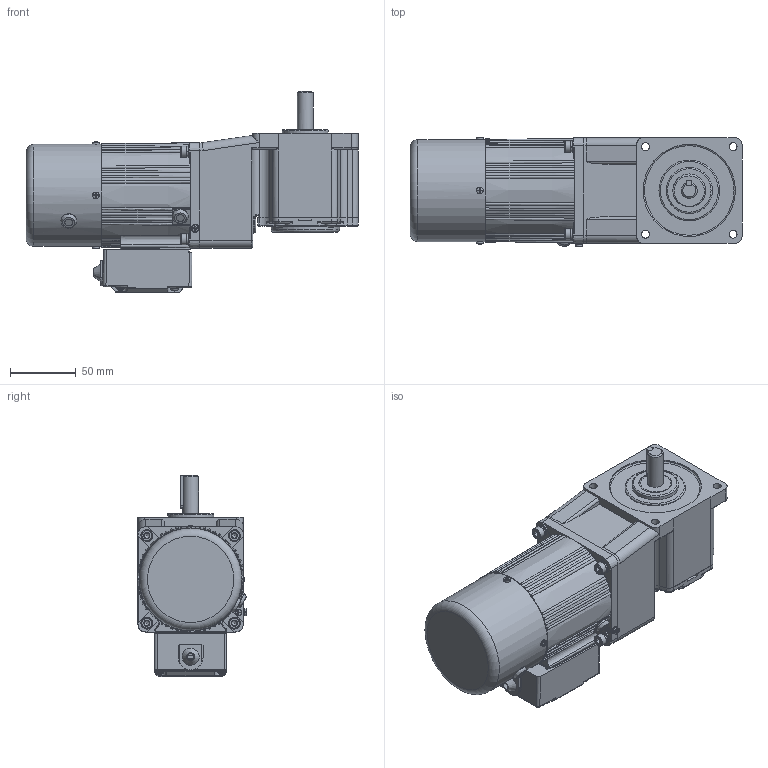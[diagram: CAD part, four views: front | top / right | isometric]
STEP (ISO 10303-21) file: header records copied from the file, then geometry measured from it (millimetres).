
FILE_DESCRIPTION(/* description */ (''),/* implementation_level */ '2;1');
FILE_NAME(/* name */ '80+中实直角-刹车-25-40W 新版标准接线盒.stp',/* time_stamp */ '2025-11-26T08:49:19+08:00',/* author */ (''),/* organization */ (''),/* preprocessor_version */ 'ST-DEVELOPER v18.102',/* originating_system */ 'SIEMENS PLM Software NX 2027',/* authorisation */ '');
FILE_SCHEMA (('AUTOMOTIVE_DESIGN { 1 0 10303 214 3 1 1 1 }'));
Products named in the file (1): 80+中实直角-刹车-25-40W 新版标准接线盒_
objects
Bounding box: 252 x 83.42 x 152.84 mm (x, y, z)
Volume: 1364213.5 mm3; surface area: 162522 mm2
Topology: 19 solids, 19 shells, 1704 faces, 4260 edges, 2664 vertices
Faces by surface type: plane 754, cylinder 485, bspline 177, torus 138, cone 110, sphere 40
Full cylindrical faces by diameter (mm): 2.2 x2, 2.6 x1, 2.9 x4, 3 x1, 3.2 x1, 3.5 x2, 4.2 x5, 4.4 x1, 4.8 x1, 4.826 x4, 5 x9, 5.1 x5, 5.3 x4, 5.6 x4, 6 x15, 7 x1, 8 x7, 8.2 x1, 8.5 x4, 9 x4, 10 x2, 10.5 x1, 12 x1, 19 x1, 25 x1, 26 x1, 35 x1, 46 x1, 52 x1, 56 x1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
Entity records: 57838 total; most frequent: CARTESIAN_POINT 19845, ORIENTED_EDGE 7960, DIRECTION 7316, EDGE_CURVE 3980, AXIS2_PLACEMENT_3D 2812, VERTEX_POINT 2593, EDGE_LOOP 2013, ADVANCED_FACE 1701
